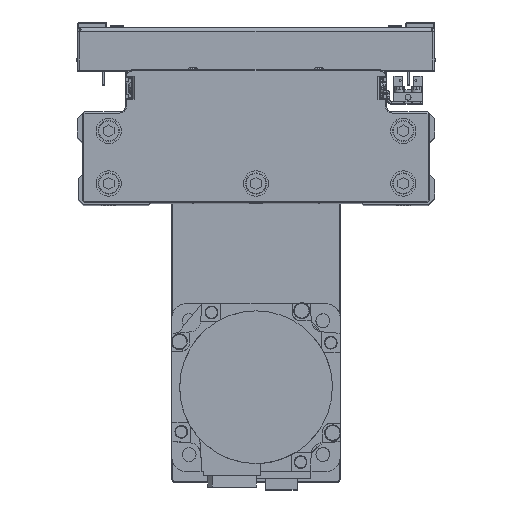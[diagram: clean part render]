
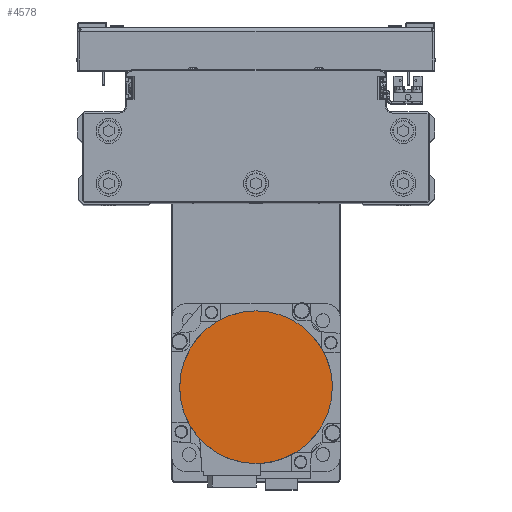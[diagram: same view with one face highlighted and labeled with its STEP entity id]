
A CAD part, top view. The second image highlights one B-rep face of the part: STEP entity #4578.
In plain terms, the highlighted planar face has unit normal (0, 0, 1) as drawn and (0, 0, -1) by its records, which use the part's own axes.
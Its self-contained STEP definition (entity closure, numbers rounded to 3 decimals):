
#33 = CARTESIAN_POINT ( 'NONE',  ( -28.862, 22.143, -122.2 ) ) ;
#310 = CARTESIAN_POINT ( 'NONE',  ( -36.3, 0., -122.2 ) ) ;
#542 = CARTESIAN_POINT ( 'NONE',  ( -11.696, -34.446, -122.2 ) ) ;
#1081 = CIRCLE ( 'NONE', #25879, 36.3 ) ;
#2785 = PLANE ( 'NONE',  #4060 ) ;
#3339 = CARTESIAN_POINT ( 'NONE',  ( -22.143, 28.862, -122.2 ) ) ;
#3837 = CARTESIAN_POINT ( 'NONE',  ( -22.143, -28.862, -122.2 ) ) ;
#3946 = ORIENTED_EDGE ( 'NONE', *, *, #18860, .F. ) ;
#4060 = AXIS2_PLACEMENT_3D ( 'NONE', #16331, #29887, #43420 ) ;
#4235 = B_SPLINE_CURVE_WITH_KNOTS ( 'NONE', 3,
 ( #310, #13842, #27388, #40946, #10511, #24037, #37601, #7166, #20712, #34263, #3837, #17390, #30953, #542, #14071, #27611, #41161, #10729 ),
 .UNSPECIFIED., .F., .F.,
 ( 4, 2, 2, 2, 2, 2, 2, 2, 4 ),
 ( 0., 0.125, 0.25, 0.375, 0.5, 0.625, 0.75, 0.875, 1. ),
 .UNSPECIFIED. ) ;
#4578 = ADVANCED_FACE ( 'NONE', ( #33205 ), #2785, .F. ) ;
#6408 = VERTEX_POINT ( 'NONE', #22606 ) ;
#6537 = DIRECTION ( 'NONE',  ( 0., 0., 1. ) ) ;
#6657 = CARTESIAN_POINT ( 'NONE',  ( -11.696, 34.446, -122.2 ) ) ;
#6881 = CARTESIAN_POINT ( 'NONE',  ( -36.3, 0., -122.2 ) ) ;
#7166 = CARTESIAN_POINT ( 'NONE',  ( -28.862, -22.143, -122.2 ) ) ;
#7543 = CARTESIAN_POINT ( 'NONE',  ( 0., 36.3, -122.2 ) ) ;
#9404 = CARTESIAN_POINT ( 'NONE',  ( -2.376, 36.3, -122.2 ) ) ;
#9615 = ORIENTED_EDGE ( 'NONE', *, *, #36600, .F. ) ;
#10206 = CARTESIAN_POINT ( 'NONE',  ( -35.139, 9.412, -122.2 ) ) ;
#10511 = CARTESIAN_POINT ( 'NONE',  ( -34.446, -11.696, -122.2 ) ) ;
#10729 = CARTESIAN_POINT ( 'NONE',  ( 0., -36.3, -122.2 ) ) ;
#10861 = DIRECTION ( 'NONE',  ( 0., 0., 1. ) ) ;
#12464 = VERTEX_POINT ( 'NONE', #35439 ) ;
#13565 = CARTESIAN_POINT ( 'NONE',  ( -31.502, 18.192, -122.2 ) ) ;
#13842 = CARTESIAN_POINT ( 'NONE',  ( -36.3, -2.376, -122.2 ) ) ;
#14071 = CARTESIAN_POINT ( 'NONE',  ( -9.412, -35.139, -122.2 ) ) ;
#15889 = AXIS2_PLACEMENT_3D ( 'NONE', #36968, #6537, #20080 ) ;
#16331 = CARTESIAN_POINT ( 'NONE',  ( 0., 0., -122.2 ) ) ;
#16888 = CARTESIAN_POINT ( 'NONE',  ( -23.988, 27.348, -122.2 ) ) ;
#17390 = CARTESIAN_POINT ( 'NONE',  ( -18.192, -31.502, -122.2 ) ) ;
#18680 = ORIENTED_EDGE ( 'NONE', *, *, #40053, .F. ) ;
#18860 = EDGE_CURVE ( 'NONE', #35966, #12464, #4235, .T. ) ;
#20080 = DIRECTION ( 'NONE',  ( -1., 0., 0. ) ) ;
#20203 = CARTESIAN_POINT ( 'NONE',  ( -16.086, 32.628, -122.2 ) ) ;
#20712 = CARTESIAN_POINT ( 'NONE',  ( -27.348, -23.988, -122.2 ) ) ;
#22606 = CARTESIAN_POINT ( 'NONE',  ( 36.3, 0., -122.2 ) ) ;
#22926 = CARTESIAN_POINT ( 'NONE',  ( -4.752, 36.066, -122.2 ) ) ;
#23748 = CARTESIAN_POINT ( 'NONE',  ( -36.066, 4.752, -122.2 ) ) ;
#24037 = CARTESIAN_POINT ( 'NONE',  ( -32.628, -16.086, -122.2 ) ) ;
#24389 = DIRECTION ( 'NONE',  ( -1., 0., 0. ) ) ;
#25879 = AXIS2_PLACEMENT_3D ( 'NONE', #41291, #10861, #24389 ) ;
#26227 = ORIENTED_EDGE ( 'NONE', *, *, #39038, .F. ) ;
#27107 = CARTESIAN_POINT ( 'NONE',  ( -32.628, 16.086, -122.2 ) ) ;
#27388 = CARTESIAN_POINT ( 'NONE',  ( -36.066, -4.752, -122.2 ) ) ;
#27611 = CARTESIAN_POINT ( 'NONE',  ( -4.752, -36.066, -122.2 ) ) ;
#29671 = B_SPLINE_CURVE_WITH_KNOTS ( 'NONE', 3,
 ( #39827, #9404, #22926, #36487, #6657, #20203, #33762, #3339, #16888, #30439, #33, #13565, #27107, #40655, #10206, #23748, #37303, #6881 ),
 .UNSPECIFIED., .F., .F.,
 ( 4, 2, 2, 2, 2, 2, 2, 2, 4 ),
 ( 0., 0.125, 0.25, 0.375, 0.5, 0.625, 0.75, 0.875, 1. ),
 .UNSPECIFIED. ) ;
#29887 = DIRECTION ( 'NONE',  ( 0., 0., 1. ) ) ;
#30439 = CARTESIAN_POINT ( 'NONE',  ( -27.348, 23.988, -122.2 ) ) ;
#30953 = CARTESIAN_POINT ( 'NONE',  ( -16.086, -32.628, -122.2 ) ) ;
#33205 = FACE_OUTER_BOUND ( 'NONE', #39314, .T. ) ;
#33700 = CARTESIAN_POINT ( 'NONE',  ( -36.3, 0., -122.2 ) ) ;
#33762 = CARTESIAN_POINT ( 'NONE',  ( -18.192, 31.502, -122.2 ) ) ;
#34263 = CARTESIAN_POINT ( 'NONE',  ( -23.988, -27.348, -122.2 ) ) ;
#35041 = CIRCLE ( 'NONE', #15889, 36.3 ) ;
#35439 = CARTESIAN_POINT ( 'NONE',  ( 0., -36.3, -122.2 ) ) ;
#35966 = VERTEX_POINT ( 'NONE', #33700 ) ;
#36487 = CARTESIAN_POINT ( 'NONE',  ( -9.412, 35.139, -122.2 ) ) ;
#36600 = EDGE_CURVE ( 'NONE', #36685, #35966, #29671, .T. ) ;
#36685 = VERTEX_POINT ( 'NONE', #7543 ) ;
#36968 = CARTESIAN_POINT ( 'NONE',  ( 0., 0., -122.2 ) ) ;
#37303 = CARTESIAN_POINT ( 'NONE',  ( -36.3, 2.376, -122.2 ) ) ;
#37601 = CARTESIAN_POINT ( 'NONE',  ( -31.502, -18.192, -122.2 ) ) ;
#39038 = EDGE_CURVE ( 'NONE', #12464, #6408, #35041, .T. ) ;
#39314 = EDGE_LOOP ( 'NONE', ( #26227, #3946, #9615, #18680 ) ) ;
#39827 = CARTESIAN_POINT ( 'NONE',  ( 0., 36.3, -122.2 ) ) ;
#40053 = EDGE_CURVE ( 'NONE', #6408, #36685, #1081, .T. ) ;
#40655 = CARTESIAN_POINT ( 'NONE',  ( -34.446, 11.696, -122.2 ) ) ;
#40946 = CARTESIAN_POINT ( 'NONE',  ( -35.139, -9.412, -122.2 ) ) ;
#41161 = CARTESIAN_POINT ( 'NONE',  ( -2.376, -36.3, -122.2 ) ) ;
#41291 = CARTESIAN_POINT ( 'NONE',  ( 0., 0., -122.2 ) ) ;
#43420 = DIRECTION ( 'NONE',  ( 1., 0., 0. ) ) ;
